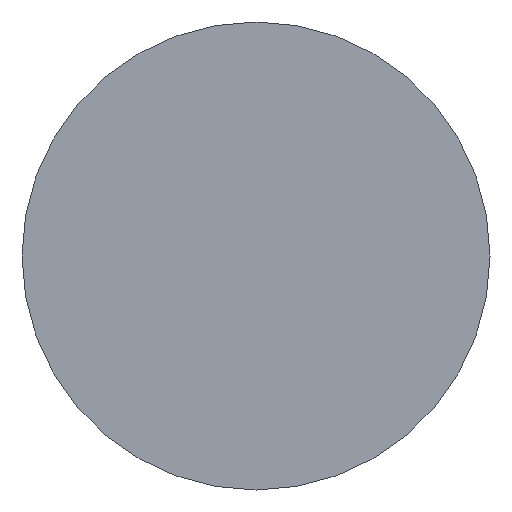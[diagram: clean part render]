
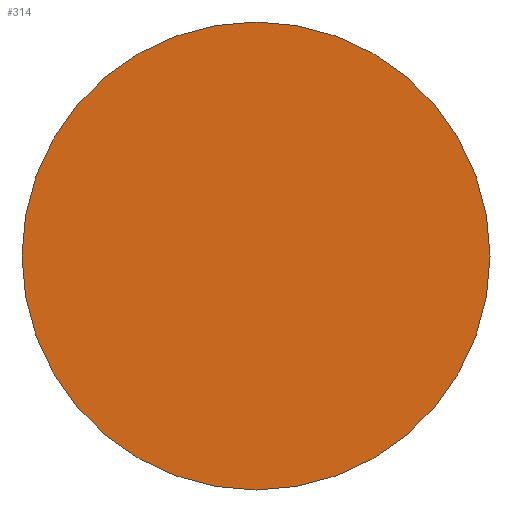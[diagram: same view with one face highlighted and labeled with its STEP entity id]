
A CAD part, left-side view. The second image highlights one B-rep face of the part: STEP entity #314.
In plain terms, the highlighted planar face has unit normal (-1, 0, 0).
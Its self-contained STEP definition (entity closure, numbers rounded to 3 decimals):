
#49=FACE_OUTER_BOUND('',#65,.T.);
#65=EDGE_LOOP('',(#210,#211));
#81=CIRCLE('',#351,2.575);
#82=CIRCLE('',#352,2.575);
#122=VERTEX_POINT('',#535);
#123=VERTEX_POINT('',#536);
#159=EDGE_CURVE('',#122,#123,#81,.T.);
#160=EDGE_CURVE('',#123,#122,#82,.T.);
#210=ORIENTED_EDGE('',*,*,#159,.F.);
#211=ORIENTED_EDGE('',*,*,#160,.F.);
#312=PLANE('',#350);
#314=ADVANCED_FACE('',(#49),#312,.T.);
#350=AXIS2_PLACEMENT_3D('',#534,#409,#410);
#351=AXIS2_PLACEMENT_3D('',#537,#411,#412);
#352=AXIS2_PLACEMENT_3D('',#538,#413,#414);
#409=DIRECTION('center_axis',(-1.,0.,0.));
#410=DIRECTION('ref_axis',(0.,0.,1.));
#411=DIRECTION('center_axis',(1.,0.,0.));
#412=DIRECTION('ref_axis',(0.,0.,-1.));
#413=DIRECTION('center_axis',(1.,0.,0.));
#414=DIRECTION('ref_axis',(0.,0.,-1.));
#534=CARTESIAN_POINT('Origin',(0.,2.575,0.));
#535=CARTESIAN_POINT('',(0.,2.575,0.));
#536=CARTESIAN_POINT('',(0.,-2.575,0.));
#537=CARTESIAN_POINT('Origin',(0.,0.,0.));
#538=CARTESIAN_POINT('Origin',(0.,0.,0.));
